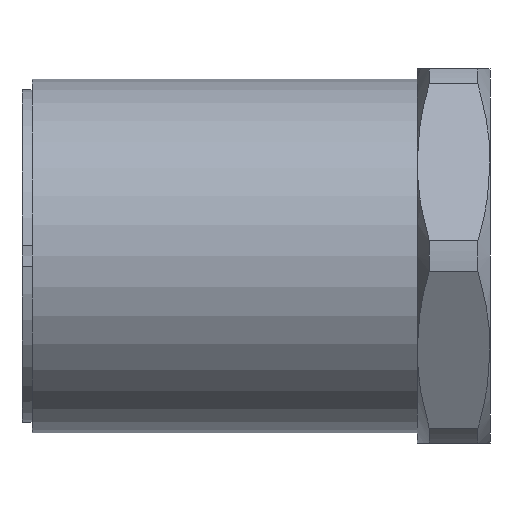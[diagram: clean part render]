
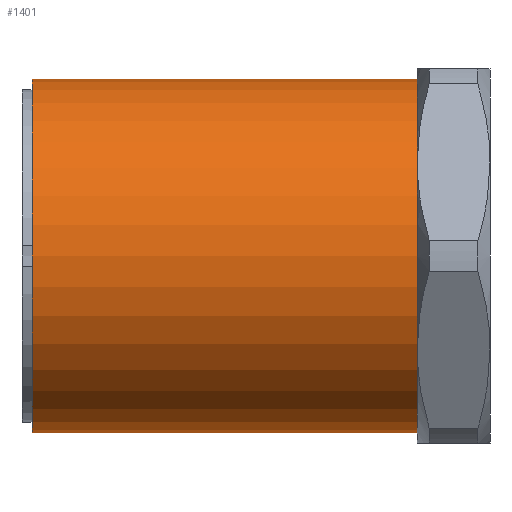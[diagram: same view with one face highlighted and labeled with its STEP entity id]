
A CAD part, front view. The second image highlights one B-rep face of the part: STEP entity #1401.
In plain terms, the highlighted cylindrical face has radius 8.5 mm (diameter 17 mm), a partial arc.
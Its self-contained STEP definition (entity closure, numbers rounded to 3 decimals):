
#286 = DIRECTION ( 'NONE',  ( 0., 0., 1. ) ) ;
#287 = DIRECTION ( 'NONE',  ( -1., 0., 0. ) ) ;
#291 = DIRECTION ( 'NONE',  ( -1., 0., 0. ) ) ;
#292 = CARTESIAN_POINT ( 'NONE',  ( 0., 0., 8.5 ) ) ;
#299 = CARTESIAN_POINT ( 'NONE',  ( 0., 0., 0. ) ) ;
#303 = DIRECTION ( 'NONE',  ( -1., 0., 0. ) ) ;
#310 = CARTESIAN_POINT ( 'NONE',  ( 0., 0., -8.5 ) ) ;
#349 = DIRECTION ( 'NONE',  ( 0., 0., 1. ) ) ;
#350 = DIRECTION ( 'NONE',  ( -1., 0., 0. ) ) ;
#357 = CARTESIAN_POINT ( 'NONE',  ( 18.5, 0., 0. ) ) ;
#414 = CARTESIAN_POINT ( 'NONE',  ( 0., 0., 8.5 ) ) ;
#422 = CARTESIAN_POINT ( 'NONE',  ( 18.5, 0., -8.5 ) ) ;
#438 = CARTESIAN_POINT ( 'NONE',  ( 0., 0., -8.5 ) ) ;
#441 = CARTESIAN_POINT ( 'NONE',  ( 18.5, 0., 8.5 ) ) ;
#468 = VERTEX_POINT ( 'NONE', #441 ) ;
#471 = VERTEX_POINT ( 'NONE', #438 ) ;
#487 = VERTEX_POINT ( 'NONE', #422 ) ;
#495 = VERTEX_POINT ( 'NONE', #414 ) ;
#598 = DIRECTION ( 'NONE',  ( 0., 0., 1. ) ) ;
#602 = DIRECTION ( 'NONE',  ( -1., 0., 0. ) ) ;
#603 = CARTESIAN_POINT ( 'NONE',  ( 0., 0., 0. ) ) ;
#898 = CIRCLE ( 'NONE', #1497, 8.5 ) ;
#912 = VECTOR ( 'NONE', #303, 1000. ) ;
#918 = LINE ( 'NONE', #310, #912 ) ;
#927 = LINE ( 'NONE', #292, #928 ) ;
#928 = VECTOR ( 'NONE', #291, 1000. ) ;
#932 = CIRCLE ( 'NONE', #1570, 8.5 ) ;
#1009 = FACE_OUTER_BOUND ( 'NONE', #1592, .T. ) ;
#1018 = CYLINDRICAL_SURFACE ( 'NONE', #1534, 8.5 ) ;
#1165 = ORIENTED_EDGE ( 'NONE', *, *, #1287, .T. ) ;
#1166 = ORIENTED_EDGE ( 'NONE', *, *, #1303, .F. ) ;
#1167 = ORIENTED_EDGE ( 'NONE', *, *, #1308, .T. ) ;
#1168 = ORIENTED_EDGE ( 'NONE', *, *, #1310, .F. ) ;
#1287 = EDGE_CURVE ( 'NONE', #487, #468, #898, .T. ) ;
#1303 = EDGE_CURVE ( 'NONE', #487, #471, #918, .T. ) ;
#1308 = EDGE_CURVE ( 'NONE', #468, #495, #927, .T. ) ;
#1310 = EDGE_CURVE ( 'NONE', #471, #495, #932, .T. ) ;
#1401 = ADVANCED_FACE ( 'NONE', ( #1009 ), #1018, .T. ) ;
#1497 = AXIS2_PLACEMENT_3D ( 'NONE', #357, #350, #349 ) ;
#1534 = AXIS2_PLACEMENT_3D ( 'NONE', #603, #602, #598 ) ;
#1570 = AXIS2_PLACEMENT_3D ( 'NONE', #299, #287, #286 ) ;
#1592 = EDGE_LOOP ( 'NONE', ( #1166, #1165, #1167, #1168 ) ) ;
